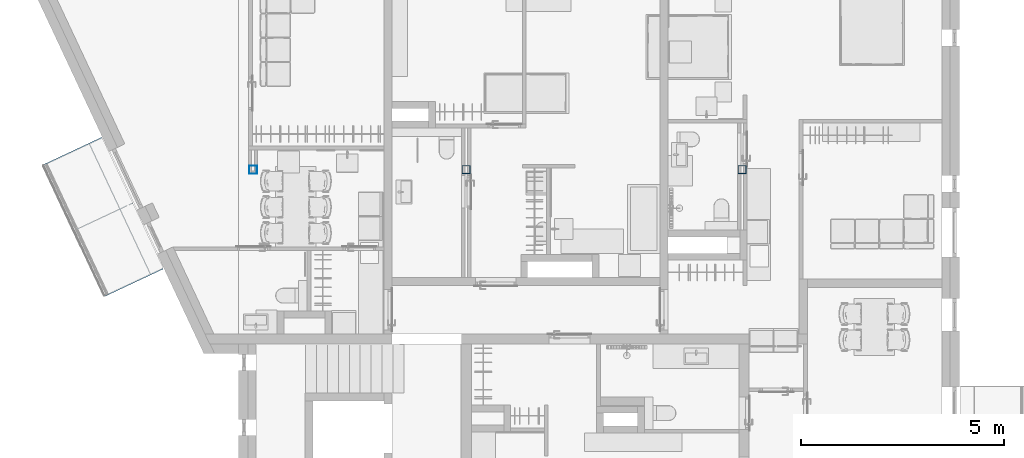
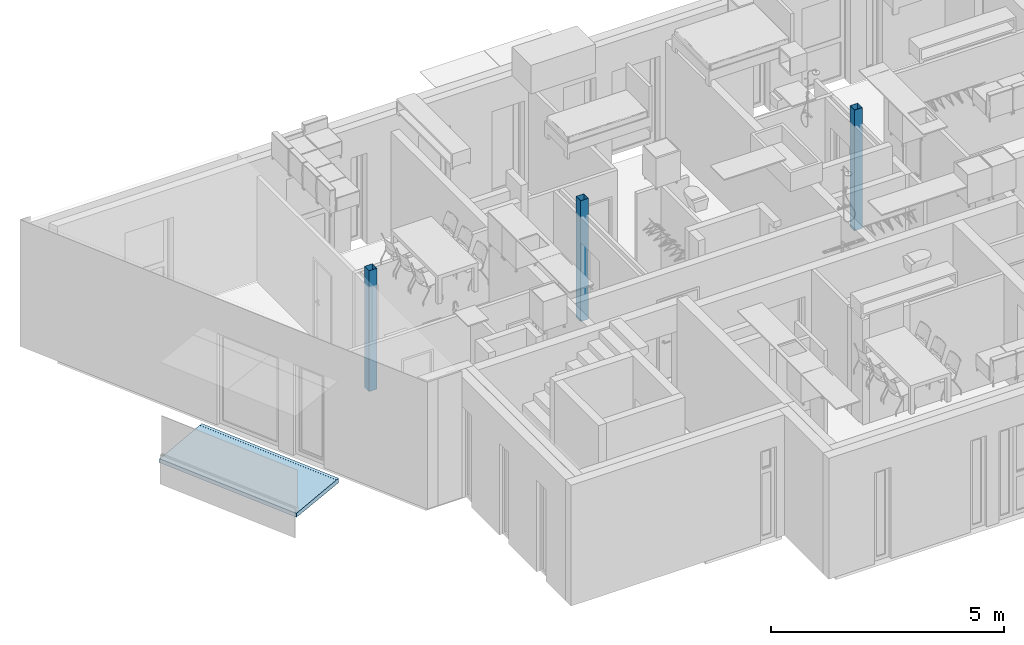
# One storey, part 1 of 68: 3 columns, 1 slab.
"""IFC2X3 building model written with IfcOpenShell, lengths in millimetres."""

from ifc_helpers import new_model, entity, si_unit, converted_unit, direction, frame, origin, place, context, subcontext, project, spatial, polyline, outline, extrude, source, transform, mapped, material, type_object, type_shapes, element, save


model = new_model("IFC2X3")

# Units and contexts
model_context = context("Model", 3, precision=0.01, world=origin(), true_north=direction((6.123233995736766e-17, 1.0)))
plan_context = context("Plan", 3, precision=0.01, world=origin(), true_north=direction((6.123233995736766e-17, 1.0)))
body_context = subcontext(model_context, "Body", "Model", "MODEL_VIEW")
ifc_project = project(units=[si_unit("LENGTHUNIT", "METRE", prefix="MILLI"), converted_unit("PLANEANGLEUNIT", "DEGREE", entity("IfcPlaneAngleMeasure", 0.017453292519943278), si_unit("PLANEANGLEUNIT", "RADIAN"), dimensions=[0, 0, 0, 0, 0, 0, 0]), si_unit("AREAUNIT", "SQUARE_METRE")], contexts=[model_context, plan_context])

# Site, building, storey
site_placement = place(None, origin())
site = spatial("IfcSite", under=ifc_project, at=site_placement, Name="Default", CompositionType="ELEMENT")
building_placement = place(site_placement, origin())
building = spatial("IfcBuilding", under=site, at=building_placement, CompositionType="ELEMENT")
storey_placement = place(building_placement, frame((0.0, 0.0, 6295.0)))
storey = spatial("IfcBuildingStorey", under=building, at=storey_placement, Name="3K", CompositionType="ELEMENT", Elevation=6294.999999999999)

# Columns
ifc_material_1 = material(Name="_K. Metall. Teras. Värvitud")
column_type_1 = type_object("IfcColumnType", Name="HR_Column_Rectangular_Hollow:200x200x5", PredefinedType="COLUMN", material=ifc_material_1)
shared_shape_1 = source(origin(), body_context, "Body", "SweptSolid", [
    extrude(outline(polyline([(-100.0, -100.0), (100.0, -100.0), (100.0, 100.0), (-100.0, 100.0), (-100.0, -100.0)]), holes=[polyline([(95.0, 95.0), (95.0, -95.0), (-95.0, -95.0), (-95.0, 95.0), (95.0, 95.0)])]), frame((0.0, 0.0, 6295.0), z_axis=(0.0, 0.0, 1.0), x_axis=(0.0, 1.0, 0.0)), (0.0, 0.0, 1.0), 3169.9999999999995),
])
type_shapes(column_type_1, [shared_shape_1])
column_placement = place(storey_placement, frame((-75.0100000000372, 10700.0, -6295.0)))
element("IfcColumn", 1, at=column_placement, inside=storey, type_object=column_type_1, material=ifc_material_1, Name="HR_Column_Rectangular_Hollow:200x200x5", ObjectType="HR_Column_Rectangular_Hollow:200x200x5", context=body_context, shape_type="MappedRepresentation", body=[
    mapped(shared_shape_1, transform((0.0, 0.0, 0.0), scale=1.0)),
])
column_type_2 = type_object("IfcColumnType", Name="HR_Column_Rectangular_Hollow:200x200x8", PredefinedType="COLUMN", material=ifc_material_1)
shared_shape_2 = source(origin(), body_context, "Body", "SweptSolid", [
    extrude(outline(polyline([(-100.0, -100.0), (100.0, -100.0), (100.0, 100.0), (-100.0, 100.0), (-100.0, -100.0)]), holes=[polyline([(92.0, 92.0), (92.0, -92.0), (-92.0, -92.0), (-92.0, 92.0), (92.0, 92.0)])]), frame((0.0, 0.0, 6295.0), z_axis=(0.0, 0.0, 1.0), x_axis=(0.0, 1.0, 0.0)), (0.0, 0.0, 1.0), 3169.9999999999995),
])
type_shapes(column_type_2, [shared_shape_2])
for number, where, name in (
    (2, (5175.0, 10700.0, -6295.0), "HR_Column_Rectangular_Hollow:200x200x8"),
    (3, (11975.0, 10700.0, -6295.0), "HR_Column_Rectangular_Hollow:200x200x8"),
):
    element("IfcColumn", number, at=place(storey_placement, frame(where)), inside=storey, type_object=column_type_2, material=ifc_material_1, Name=name, ObjectType="HR_Column_Rectangular_Hollow:200x200x8", context=body_context, shape_type="MappedRepresentation", body=[
        mapped(shared_shape_2, transform((0.0, 0.0, 0.0), scale=1.0)),
    ])

# Slab
ifc_material_2 = material(Name="_K. Betoon. Armeeritud. Monteeritav")
slab_type = type_object("IfcSlabType", Name="HR_Slab_Balcony_v3:Default", PredefinedType="FLOOR", material=ifc_material_2)
slab_placement = place(storey_placement, frame((0.0, 0.0, -225.50023803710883)))
element("IfcSlab", 4, at=slab_placement, inside=storey, type_object=slab_type, Name="HR_Slab_Balcony_v3:Default", ObjectType="HR_Slab_Balcony_v3:Default", PredefinedType="FLOOR", context=body_context, shape_type="SweptSolid", body=[
    extrude(outline(polyline([(-636.2215697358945, 62.610965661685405), (-637.217100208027, -42.38431479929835), (-604.7185610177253, -42.69245518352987), (-594.624198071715, -32.78771708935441), (-579.6248722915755, -32.9299357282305), (-569.7201341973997, -43.02429867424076), (944.7117920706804, -57.383640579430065), (945.8495411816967, 62.61096566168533), (865.8531370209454, 63.36946506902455), (865.7119652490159, 62.61096566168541), (-636.2215697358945, 62.610965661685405)])), frame((-3143.9997280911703, 7850.2162604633, 48.424019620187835), z_axis=(0.4244338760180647, -0.9054589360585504, 0.0), x_axis=(0.9054182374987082, 0.42441479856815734, 0.009481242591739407)), (0.0, 0.0, -1.0), 3584.0),
])

save(model, "model.ifc")
